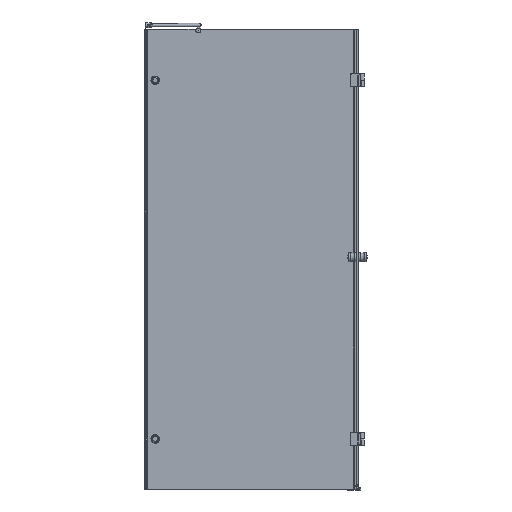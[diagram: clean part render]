
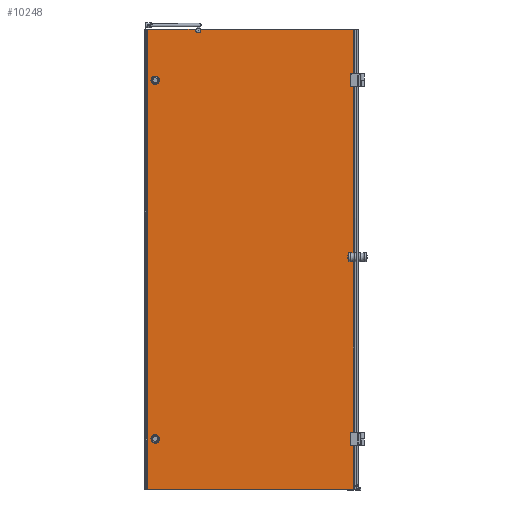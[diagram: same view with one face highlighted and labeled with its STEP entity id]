
A CAD part, left-side view. The second image highlights one B-rep face of the part: STEP entity #10248.
In plain terms, the highlighted planar face has unit normal (-1, 0, 0).
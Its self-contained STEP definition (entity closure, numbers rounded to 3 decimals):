
#64=FACE_BOUND($,#3368,.T.);
#65=FACE_BOUND($,#3369,.T.);
#137=PLANE($,#10873);
#553=LINE($,#15017,#1604);
#554=LINE($,#15019,#1605);
#555=LINE($,#15021,#1606);
#556=LINE($,#15023,#1607);
#557=LINE($,#15027,#1608);
#558=LINE($,#15029,#1609);
#559=LINE($,#15037,#1610);
#560=LINE($,#15038,#1611);
#1604=VECTOR($,#11931,198.774);
#1605=VECTOR($,#11932,1900.);
#1606=VECTOR($,#11933,847.7);
#1607=VECTOR($,#11934,0.019);
#1608=VECTOR($,#11937,3.581);
#1609=VECTOR($,#11938,12.192);
#1610=VECTOR($,#11945,1884.733);
#1611=VECTOR($,#11946,636.666);
#2797=FACE_OUTER_BOUND($,#3367,.T.);
#3367=EDGE_LOOP($,(#6910,#6911,#6912,#6913,#6914,#6915,#6916,#6917,#6918,
#6919,#6920,#6921,#6922));
#3368=EDGE_LOOP($,(#6923));
#3369=EDGE_LOOP($,(#6924));
#3969=CIRCLE($,#10852,10.);
#3978=CIRCLE($,#10874,2.);
#3979=CIRCLE($,#10875,16.);
#3980=CIRCLE($,#10876,0.5);
#3981=CIRCLE($,#10877,16.);
#3982=CIRCLE($,#10878,15.);
#3983=CIRCLE($,#10879,15.);
#4368=VERTEX_POINT($,#14812);
#4369=VERTEX_POINT($,#14814);
#4386=VERTEX_POINT($,#15016);
#4387=VERTEX_POINT($,#15018);
#4388=VERTEX_POINT($,#15020);
#4389=VERTEX_POINT($,#15022);
#4390=VERTEX_POINT($,#15024);
#4391=VERTEX_POINT($,#15026);
#4392=VERTEX_POINT($,#15028);
#4393=VERTEX_POINT($,#15030);
#4394=VERTEX_POINT($,#15032);
#4395=VERTEX_POINT($,#15034);
#4396=VERTEX_POINT($,#15036);
#4397=VERTEX_POINT($,#15039);
#4398=VERTEX_POINT($,#15041);
#5333=EDGE_CURVE($,#4369,#4368,#3969,.T.);
#5357=EDGE_CURVE($,#4368,#4386,#553,.T.);
#5358=EDGE_CURVE($,#4386,#4387,#554,.T.);
#5359=EDGE_CURVE($,#4388,#4387,#555,.T.);
#5360=EDGE_CURVE($,#4389,#4388,#556,.T.);
#5361=EDGE_CURVE($,#4389,#4390,#3978,.T.);
#5362=EDGE_CURVE($,#4390,#4391,#557,.T.);
#5363=EDGE_CURVE($,#4392,#4391,#558,.T.);
#5364=EDGE_CURVE($,#4392,#4393,#3979,.T.);
#5365=EDGE_CURVE($,#4393,#4394,#3980,.T.);
#5366=EDGE_CURVE($,#4394,#4395,#3981,.T.);
#5367=EDGE_CURVE($,#4396,#4395,#559,.T.);
#5368=EDGE_CURVE($,#4396,#4369,#560,.T.);
#5369=EDGE_CURVE($,#4397,#4397,#3982,.T.);
#5370=EDGE_CURVE($,#4398,#4398,#3983,.T.);
#6910=ORIENTED_EDGE($,*,*,#5333,.T.);
#6911=ORIENTED_EDGE($,*,*,#5357,.T.);
#6912=ORIENTED_EDGE($,*,*,#5358,.T.);
#6913=ORIENTED_EDGE($,*,*,#5359,.F.);
#6914=ORIENTED_EDGE($,*,*,#5360,.F.);
#6915=ORIENTED_EDGE($,*,*,#5361,.T.);
#6916=ORIENTED_EDGE($,*,*,#5362,.T.);
#6917=ORIENTED_EDGE($,*,*,#5363,.F.);
#6918=ORIENTED_EDGE($,*,*,#5364,.T.);
#6919=ORIENTED_EDGE($,*,*,#5365,.T.);
#6920=ORIENTED_EDGE($,*,*,#5366,.T.);
#6921=ORIENTED_EDGE($,*,*,#5367,.F.);
#6922=ORIENTED_EDGE($,*,*,#5368,.T.);
#6923=ORIENTED_EDGE($,*,*,#5369,.T.);
#6924=ORIENTED_EDGE($,*,*,#5370,.T.);
#10248=ADVANCED_FACE($,(#2797,#64,#65),#137,.T.);
#10852=AXIS2_PLACEMENT_3D($,#14815,#11880,#11881);
#10873=AXIS2_PLACEMENT_3D($,#15015,#11929,#11930);
#10874=AXIS2_PLACEMENT_3D($,#15025,#11935,#11936);
#10875=AXIS2_PLACEMENT_3D($,#15031,#11939,#11940);
#10876=AXIS2_PLACEMENT_3D($,#15033,#11941,#11942);
#10877=AXIS2_PLACEMENT_3D($,#15035,#11943,#11944);
#10878=AXIS2_PLACEMENT_3D($,#15040,#11947,#11948);
#10879=AXIS2_PLACEMENT_3D($,#15042,#11949,#11950);
#11880=DIRECTION('center_axis',(1.,0.,0.));
#11881=DIRECTION('ref_axis',(0.,0.597,0.802));
#11929=DIRECTION('center_axis',(-1.,0.,0.));
#11930=DIRECTION('ref_axis',(0.,1.,0.));
#11931=DIRECTION($,(0.,1.,0.));
#11932=DIRECTION($,(0.,0.,-1.));
#11933=DIRECTION($,(0.,1.,0.));
#11934=DIRECTION($,(0.,1.,0.));
#11935=DIRECTION('center_axis',(1.,0.,0.));
#11936=DIRECTION('ref_axis',(0.,0.707,0.707));
#11937=DIRECTION($,(0.,-1.,0.));
#11938=DIRECTION($,(0.,0.,-1.));
#11939=DIRECTION('center_axis',(1.,0.,0.));
#11940=DIRECTION('ref_axis',(0.,-0.71,-0.704));
#11941=DIRECTION('center_axis',(1.,0.,0.));
#11942=DIRECTION('ref_axis',(0.,-0.169,-0.986));
#11943=DIRECTION('center_axis',(-1.,0.,0.));
#11944=DIRECTION('ref_axis',(0.,0.747,0.665));
#11945=DIRECTION($,(0.,0.,-1.));
#11946=DIRECTION($,(0.,1.,0.));
#11947=DIRECTION('center_axis',(1.,0.,0.));
#11948=DIRECTION('ref_axis',(0.,-1.,0.));
#11949=DIRECTION('center_axis',(1.,0.,0.));
#11950=DIRECTION('ref_axis',(0.,-1.,0.));
#14812=CARTESIAN_POINT('',(1240.019,635.482,1385.944));
#14814=CARTESIAN_POINT('',(1240.019,617.622,1385.944));
#14815=CARTESIAN_POINT('Origin',(1240.019,626.552,1381.444));
#15015=CARTESIAN_POINT('Origin',(1240.019,-19.044,1385.944));
#15016=CARTESIAN_POINT('',(1240.019,834.256,1385.944));
#15017=CARTESIAN_POINT($,(1240.019,-19.044,1385.944));
#15018=CARTESIAN_POINT('',(1240.019,834.256,-514.056));
#15019=CARTESIAN_POINT($,(1240.019,834.256,435.944));
#15020=CARTESIAN_POINT('',(1240.019,-13.444,-514.056));
#15021=CARTESIAN_POINT($,(1240.019,-19.044,-514.056));
#15022=CARTESIAN_POINT('',(1240.019,-13.463,-514.056));
#15023=CARTESIAN_POINT($,(1240.019,-19.044,-514.056));
#15024=CARTESIAN_POINT('',(1240.019,-15.463,-512.056));
#15025=CARTESIAN_POINT('Origin',(1240.019,-15.463,-514.056));
#15026=CARTESIAN_POINT('',(1240.019,-19.044,-512.056));
#15027=CARTESIAN_POINT($,(1240.019,-23.879,-512.056));
#15028=CARTESIAN_POINT('',(1240.019,-19.044,-499.863));
#15029=CARTESIAN_POINT($,(1240.019,-19.044,1385.944));
#15030=CARTESIAN_POINT('',(1240.019,-18.129,-500.048));
#15031=CARTESIAN_POINT('Origin',(1240.019,-15.419,-484.28));
#15032=CARTESIAN_POINT('',(1240.019,-17.939,-499.067));
#15033=CARTESIAN_POINT('Origin',(1240.019,-18.044,-499.556));
#15034=CARTESIAN_POINT('',(1240.019,-19.044,-498.789));
#15035=CARTESIAN_POINT('Origin',(1240.019,-14.589,-483.421));
#15036=CARTESIAN_POINT('',(1240.019,-19.044,1385.944));
#15037=CARTESIAN_POINT($,(1240.019,-19.044,1385.944));
#15038=CARTESIAN_POINT($,(1240.019,-19.044,1385.944));
#15039=CARTESIAN_POINT('',(1240.019,818.956,-304.056));
#15040=CARTESIAN_POINT('Origin',(1240.019,803.956,-304.056));
#15041=CARTESIAN_POINT('',(1240.019,818.956,1175.944));
#15042=CARTESIAN_POINT('Origin',(1240.019,803.956,1175.944));
